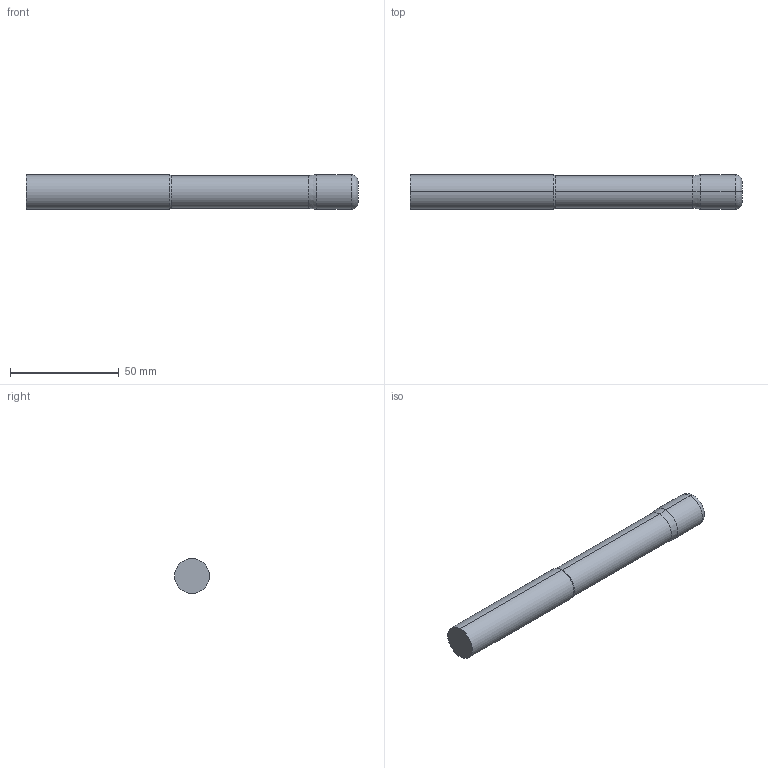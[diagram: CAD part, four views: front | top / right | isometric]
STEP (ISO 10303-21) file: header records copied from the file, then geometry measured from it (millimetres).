
FILE_DESCRIPTION (( 'STEP AP214' ), '1' );
FILE_NAME ('SSIRNL50625-120.STEP', '2025-05-28T13:19:48', ( '' ), ( '' ), 'SwSTEP 2.0', 'SolidWorks 2023', '' );
FILE_SCHEMA (( 'AUTOMOTIVE_DESIGN' ));
Length unit declared in the file: inch
Products named in the file (3): SSI5 Imperial SHANK ONLY_SSIRNL50625-120; SSIRNL50625-120; SSI5 Imperial LOC ONLY_SSIRNL50625-120
Assembly tree (2 placements, depth 2):
  SSIRNL50625-120
    SSI5 Imperial LOC ONLY_SSIRNL50625-120
    SSI5 Imperial SHANK ONLY_SSIRNL50625-120
Bounding box: 152.4 x 15.88 x 15.88 mm (x, y, z)
Volume: 28667.6 mm3; surface area: 8147.8 mm2
Topology: 2 solids, 2 shells, 16 faces, 28 edges, 16 vertices
Faces by surface type: cylinder 6, plane 4, cone 4, torus 2
Entity records: 562 total; most frequent: DIRECTION 88, CARTESIAN_POINT 65, ORIENTED_EDGE 56, AXIS2_PLACEMENT_3D 39, EDGE_CURVE 28, CIRCLE 18, EDGE_LOOP 16, FACE_OUTER_BOUND 16
